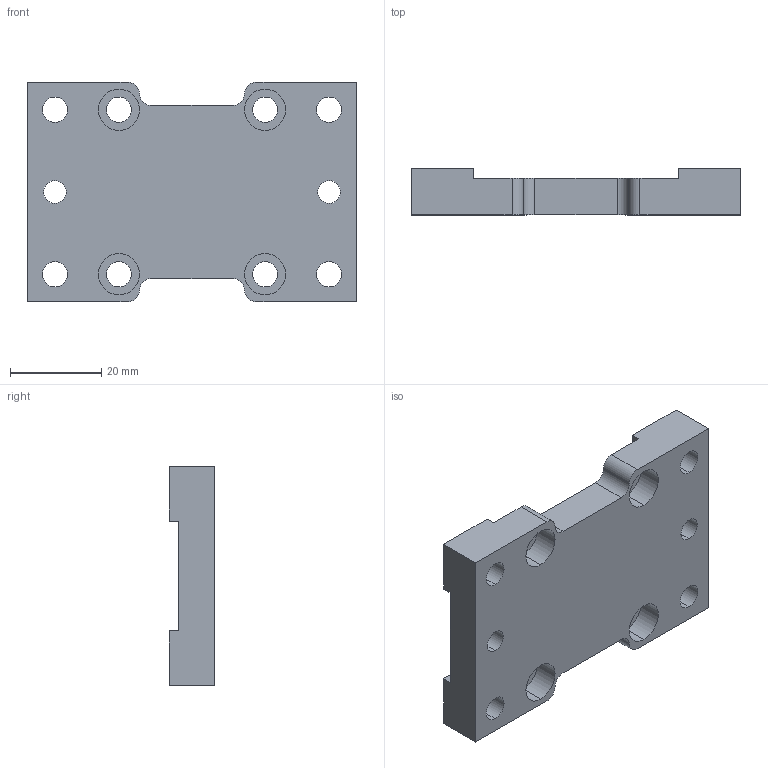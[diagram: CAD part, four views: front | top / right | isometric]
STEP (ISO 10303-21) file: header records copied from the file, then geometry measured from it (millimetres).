
FILE_DESCRIPTION (( 'STEP AP203' ), '1' );
FILE_NAME ('T32J.step', '2017-02-15T12:26:08', ( '' ), ( '' ), 'SwSTEP 2.0', 'SolidWorks 2012', '' );
FILE_SCHEMA (( 'CONFIG_CONTROL_DESIGN' ));
Length unit declared in the file: millimetre
Products named in the file (1): T32J
Bounding box: 72 x 10 x 48 mm (x, y, z)
Volume: 23354.8 mm3; surface area: 10383.4 mm2
Topology: 1 solids, 1 shells, 74 faces, 192 edges, 128 vertices
Faces by surface type: cylinder 44, plane 30
Entity records: 2421 total; most frequent: DIRECTION 430, CARTESIAN_POINT 395, ORIENTED_EDGE 384, EDGE_CURVE 192, AXIS2_PLACEMENT_3D 163, VERTEX_POINT 128, LINE 104, VECTOR 104
